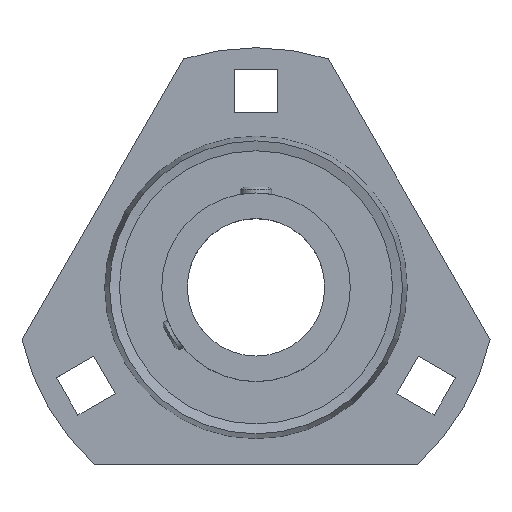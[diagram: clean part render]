
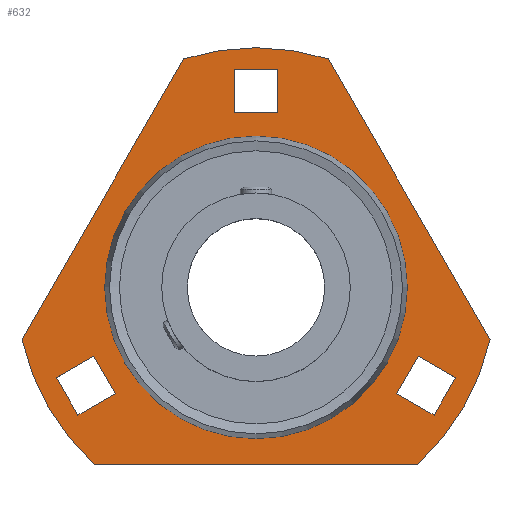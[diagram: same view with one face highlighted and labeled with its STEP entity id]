
A CAD part, top view. The second image highlights one B-rep face of the part: STEP entity #632.
In plain terms, the highlighted planar face has unit normal (0, 0, 1).
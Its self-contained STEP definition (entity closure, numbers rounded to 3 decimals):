
#122=CARTESIAN_POINT('',(-59.562,-13.165,2.6));
#123=VERTEX_POINT('',#122);
#130=CARTESIAN_POINT('',(-18.38,58.165,2.6));
#131=VERTEX_POINT('',#130);
#132=CARTESIAN_POINT('',(-59.562,-13.165,2.6));
#133=DIRECTION('',(0.5,0.866,0.0));
#134=VECTOR('',#133,82.365);
#135=LINE('',#132,#134);
#136=EDGE_CURVE('',#123,#131,#135,.T.);
#162=CARTESIAN_POINT('',(18.38,58.165,2.6));
#163=VERTEX_POINT('',#162);
#170=CARTESIAN_POINT('',(59.562,-13.165,2.6));
#171=VERTEX_POINT('',#170);
#172=CARTESIAN_POINT('',(18.38,58.165,2.6));
#173=DIRECTION('',(0.5,-0.866,0.0));
#174=VECTOR('',#173,82.365);
#175=LINE('',#172,#174);
#176=EDGE_CURVE('',#163,#171,#175,.T.);
#202=CARTESIAN_POINT('',(41.183,-45.,2.6));
#203=VERTEX_POINT('',#202);
#210=CARTESIAN_POINT('',(-41.183,-45.0,2.6));
#211=VERTEX_POINT('',#210);
#212=CARTESIAN_POINT('',(41.183,-45.0,2.6));
#213=DIRECTION('',(-1.0,0.0,0.0));
#214=VECTOR('',#213,82.365);
#215=LINE('',#212,#214);
#216=EDGE_CURVE('',#203,#211,#215,.T.);
#378=CARTESIAN_POINT('',(0.0,0.0,2.6));
#379=DIRECTION('',(0.0,0.0,-1.0));
#380=DIRECTION('',(-1.0,0.0,0.0));
#381=AXIS2_PLACEMENT_3D('',#378,#379,#380);
#382=CIRCLE('',#381,61.);
#383=EDGE_CURVE('',#211,#123,#382,.T.);
#396=CARTESIAN_POINT('',(0.0,0.0,2.6));
#397=DIRECTION('',(0.0,0.0,-1.0));
#398=DIRECTION('',(-1.0,0.0,0.0));
#399=AXIS2_PLACEMENT_3D('',#396,#397,#398);
#400=CIRCLE('',#399,61.);
#401=EDGE_CURVE('',#171,#203,#400,.T.);
#493=CARTESIAN_POINT('',(0.0,38.51,2.6));
#494=VERTEX_POINT('',#493);
#495=CARTESIAN_POINT('',(0.0,0.0,2.6));
#496=DIRECTION('',(0.0,0.0,-1.0));
#497=DIRECTION('',(0.0,1.0,0.0));
#498=AXIS2_PLACEMENT_3D('',#495,#496,#497);
#499=CIRCLE('',#498,38.51);
#500=EDGE_CURVE('',#494,#494,#499,.T.);
#508=CARTESIAN_POINT('',(0.0,0.0,2.6));
#509=DIRECTION('',(0.0,0.0,-1.0));
#510=DIRECTION('',(-1.0,0.0,0.0));
#511=AXIS2_PLACEMENT_3D('',#508,#509,#510);
#512=PLANE('',#511);
#513=ORIENTED_EDGE('',*,*,#176,.F.);
#514=CARTESIAN_POINT('',(0.0,0.0,2.6));
#515=DIRECTION('',(0.0,0.0,-1.0));
#516=DIRECTION('',(-1.0,0.0,0.0));
#517=AXIS2_PLACEMENT_3D('',#514,#515,#516);
#518=CIRCLE('',#517,61.);
#519=EDGE_CURVE('',#131,#163,#518,.T.);
#520=ORIENTED_EDGE('',*,*,#519,.F.);
#521=ORIENTED_EDGE('',*,*,#136,.F.);
#522=ORIENTED_EDGE('',*,*,#383,.F.);
#523=ORIENTED_EDGE('',*,*,#216,.F.);
#524=ORIENTED_EDGE('',*,*,#401,.F.);
#525=EDGE_LOOP('',(#513,#520,#521,#522,#523,#524));
#526=FACE_OUTER_BOUND('',#525,.T.);
#527=CARTESIAN_POINT('',(5.5,55.5,2.6));
#528=VERTEX_POINT('',#527);
#529=CARTESIAN_POINT('',(5.5,44.5,2.6));
#530=VERTEX_POINT('',#529);
#531=CARTESIAN_POINT('',(5.5,55.5,2.6));
#532=DIRECTION('',(0.0,-1.0,0.0));
#533=VECTOR('',#532,11.);
#534=LINE('',#531,#533);
#535=EDGE_CURVE('',#528,#530,#534,.T.);
#536=ORIENTED_EDGE('',*,*,#535,.T.);
#537=CARTESIAN_POINT('',(-5.5,44.5,2.6));
#538=VERTEX_POINT('',#537);
#539=CARTESIAN_POINT('',(5.5,44.5,2.6));
#540=DIRECTION('',(-1.0,0.0,0.0));
#541=VECTOR('',#540,11.0);
#542=LINE('',#539,#541);
#543=EDGE_CURVE('',#530,#538,#542,.T.);
#544=ORIENTED_EDGE('',*,*,#543,.T.);
#545=CARTESIAN_POINT('',(-5.5,55.5,2.6));
#546=VERTEX_POINT('',#545);
#547=CARTESIAN_POINT('',(-5.5,44.5,2.6));
#548=DIRECTION('',(0.0,1.0,0.0));
#549=VECTOR('',#548,11.);
#550=LINE('',#547,#549);
#551=EDGE_CURVE('',#538,#546,#550,.T.);
#552=ORIENTED_EDGE('',*,*,#551,.T.);
#553=CARTESIAN_POINT('',(-5.5,55.5,2.6));
#554=DIRECTION('',(1.0,0.0,0.0));
#555=VECTOR('',#554,11.0);
#556=LINE('',#553,#555);
#557=EDGE_CURVE('',#546,#528,#556,.T.);
#558=ORIENTED_EDGE('',*,*,#557,.T.);
#559=EDGE_LOOP('',(#536,#544,#552,#558));
#560=FACE_BOUND('',#559,.T.);
#561=CARTESIAN_POINT('',(-50.814,-22.987,2.6));
#562=VERTEX_POINT('',#561);
#563=CARTESIAN_POINT('',(-41.288,-17.487,2.6));
#564=VERTEX_POINT('',#563);
#565=CARTESIAN_POINT('',(-50.814,-22.987,2.6));
#566=DIRECTION('',(0.866,0.5,0.0));
#567=VECTOR('',#566,11.);
#568=LINE('',#565,#567);
#569=EDGE_CURVE('',#562,#564,#568,.T.);
#570=ORIENTED_EDGE('',*,*,#569,.T.);
#571=CARTESIAN_POINT('',(-35.788,-27.013,2.6));
#572=VERTEX_POINT('',#571);
#573=CARTESIAN_POINT('',(-41.288,-17.487,2.6));
#574=DIRECTION('',(0.5,-0.866,0.0));
#575=VECTOR('',#574,11.);
#576=LINE('',#573,#575);
#577=EDGE_CURVE('',#564,#572,#576,.T.);
#578=ORIENTED_EDGE('',*,*,#577,.T.);
#579=CARTESIAN_POINT('',(-45.314,-32.513,2.6));
#580=VERTEX_POINT('',#579);
#581=CARTESIAN_POINT('',(-35.788,-27.013,2.6));
#582=DIRECTION('',(-0.866,-0.5,0.0));
#583=VECTOR('',#582,11.);
#584=LINE('',#581,#583);
#585=EDGE_CURVE('',#572,#580,#584,.T.);
#586=ORIENTED_EDGE('',*,*,#585,.T.);
#587=CARTESIAN_POINT('',(-45.314,-32.513,2.6));
#588=DIRECTION('',(-0.5,0.866,0.0));
#589=VECTOR('',#588,11.);
#590=LINE('',#587,#589);
#591=EDGE_CURVE('',#580,#562,#590,.T.);
#592=ORIENTED_EDGE('',*,*,#591,.T.);
#593=EDGE_LOOP('',(#570,#578,#586,#592));
#594=FACE_BOUND('',#593,.T.);
#595=CARTESIAN_POINT('',(45.314,-32.513,2.6));
#596=VERTEX_POINT('',#595);
#597=CARTESIAN_POINT('',(35.788,-27.013,2.6));
#598=VERTEX_POINT('',#597);
#599=CARTESIAN_POINT('',(45.314,-32.513,2.6));
#600=DIRECTION('',(-0.866,0.5,0.0));
#601=VECTOR('',#600,11.0);
#602=LINE('',#599,#601);
#603=EDGE_CURVE('',#596,#598,#602,.T.);
#604=ORIENTED_EDGE('',*,*,#603,.T.);
#605=CARTESIAN_POINT('',(41.288,-17.487,2.6));
#606=VERTEX_POINT('',#605);
#607=CARTESIAN_POINT('',(35.788,-27.013,2.6));
#608=DIRECTION('',(0.5,0.866,0.0));
#609=VECTOR('',#608,11.);
#610=LINE('',#607,#609);
#611=EDGE_CURVE('',#598,#606,#610,.T.);
#612=ORIENTED_EDGE('',*,*,#611,.T.);
#613=CARTESIAN_POINT('',(50.814,-22.987,2.6));
#614=VERTEX_POINT('',#613);
#615=CARTESIAN_POINT('',(41.288,-17.487,2.6));
#616=DIRECTION('',(0.866,-0.5,0.0));
#617=VECTOR('',#616,11.);
#618=LINE('',#615,#617);
#619=EDGE_CURVE('',#606,#614,#618,.T.);
#620=ORIENTED_EDGE('',*,*,#619,.T.);
#621=CARTESIAN_POINT('',(50.814,-22.987,2.6));
#622=DIRECTION('',(-0.5,-0.866,0.0));
#623=VECTOR('',#622,11.);
#624=LINE('',#621,#623);
#625=EDGE_CURVE('',#614,#596,#624,.T.);
#626=ORIENTED_EDGE('',*,*,#625,.T.);
#627=EDGE_LOOP('',(#604,#612,#620,#626));
#628=FACE_BOUND('',#627,.T.);
#629=ORIENTED_EDGE('',*,*,#500,.T.);
#630=EDGE_LOOP('',(#629));
#631=FACE_BOUND('',#630,.T.);
#632=ADVANCED_FACE('',(#526,#560,#594,#628,#631),#512,.F.);
